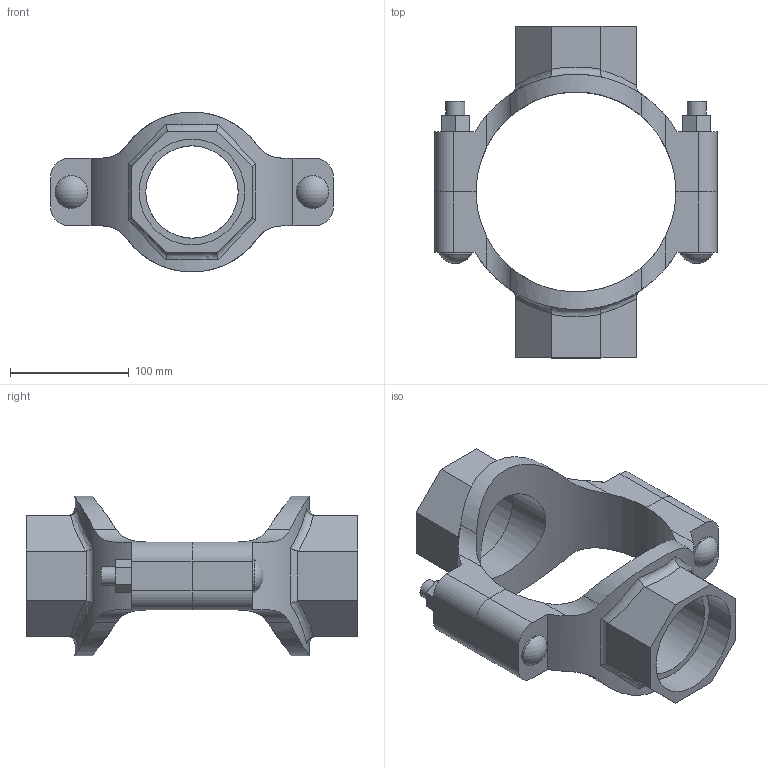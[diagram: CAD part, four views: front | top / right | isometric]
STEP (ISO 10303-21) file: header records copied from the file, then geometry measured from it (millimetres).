
FILE_DESCRIPTION(/* description */ ('VIC MECH-T BRANCH OUTLET CROSS STYLE 920N (THD)','CAx-IF Rec.Pracs.---Representation and Presentation of Product Manufacturing Information (PMI)---4.0---2014-10-13'),/* implementation_level */ '2;1');
FILE_NAME(/* name */ 'C:\Users\Vjadhav\AppData\Roaming\Autodesk\ApplicationPlugins\Back Up\Victaulic_IPS_Mechanical-Cross Outlet_Style 920N (FPT)\Victaulic_IPS_Mechanical-Cross Outlet_06.0x03.0x03.0 (150x80x80).stp',/* time_stamp */ '2020-08-06T18:59:44+05:00',/* author */ ('Vjadhav'),/* organization */ ('Victaulic'),/* preprocessor_version */ 'ST-DEVELOPER v17.2',/* originating_system */ 'Autodesk Inventor 2019',/* authorisation */ '');
FILE_SCHEMA (('AP242_MANAGED_MODEL_BASED_3D_ENGINEERING_MIM_LF { 1 0 10303 442 1 1 4 }'));
Length unit declared in the file: inch
Products named in the file (3): 920NT-06.0x03.0x03.0; 920T-06.0x03.0; 920T-06.0x03.0_1
Assembly tree (2 placements, depth 2):
  920NT-06.0x03.0x03.0
    920T-06.0x03.0
    920T-06.0x03.0_1
Bounding box: 238.25 x 279.4 x 134.68 mm (x, y, z)
Volume: 1110024.6 mm3; surface area: 206077.4 mm2
Topology: 2 solids, 2 shells, 128 faces, 338 edges, 228 vertices
Faces by surface type: plane 68, cylinder 46, bspline 8, torus 4, sphere 2
Full cylindrical faces by diameter (mm): 15.875 x4, 27.496 x2, 77.787 x2, 88.9 x2
Entity records: 5122 total; most frequent: CARTESIAN_POINT 1717, ORIENTED_EDGE 676, DIRECTION 628, EDGE_CURVE 338, VERTEX_POINT 228, AXIS2_PLACEMENT_3D 223, LINE 182, VECTOR 182
